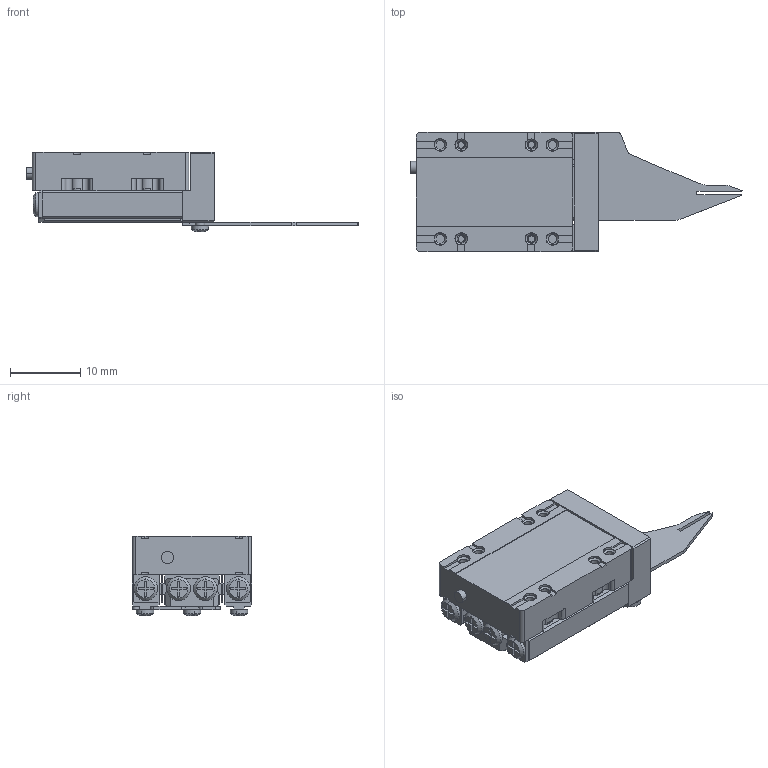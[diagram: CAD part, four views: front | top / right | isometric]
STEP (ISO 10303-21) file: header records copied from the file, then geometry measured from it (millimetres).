
FILE_DESCRIPTION (( 'STEP AP214' ), '1' );
FILE_NAME ('YGPU-P06.STEP', '2026-06-11T03:58:44', ( '' ), ( '' ), 'SwSTEP 2.0', 'SolidWorks 2022', '' );
FILE_SCHEMA (( 'AUTOMOTIVE_DESIGN' ));
Length unit declared in the file: millimetre
Products named in the file (1): YGPU-P06
Bounding box: 47.3 x 17 x 11.38 mm (x, y, z)
Volume: 3854.5 mm3; surface area: 4769.9 mm2
Topology: 26 solids, 26 shells, 863 faces, 2084 edges, 1291 vertices
Faces by surface type: plane 466, cylinder 209, cone 144, torus 22, sphere 22
Entity records: 34948 total; most frequent: DIRECTION 4578, CARTESIAN_POINT 4415, ORIENTED_EDGE 4152, EDGE_CURVE 2076, AXIS2_PLACEMENT_3D 1662, VERTEX_POINT 1287, LINE 1254, VECTOR 1254
